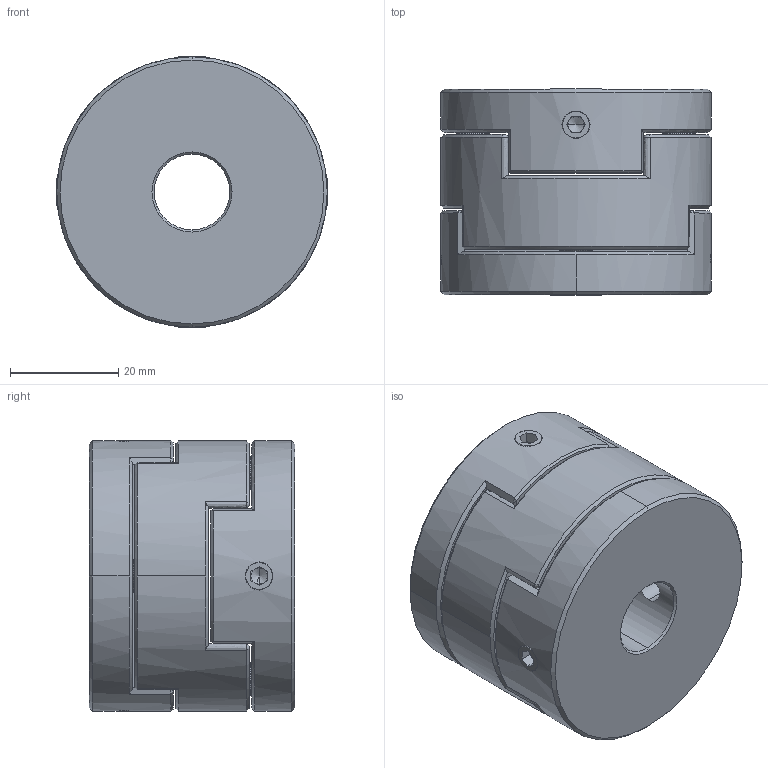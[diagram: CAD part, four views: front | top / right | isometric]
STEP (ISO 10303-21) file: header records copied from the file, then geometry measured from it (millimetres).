
FILE_DESCRIPTION (( 'STEP AP203' ), '1' );
FILE_NAME ('LZ-D-D50L38-14-24.STEP', '2021-10-30T05:47:01', ( '' ), ( '' ), 'SwSTEP 2.0', 'SolidWorks 2018', '' );
FILE_SCHEMA (( 'CONFIG_CONTROL_DESIGN' ));
Length unit declared in the file: millimetre
Products named in the file (1): LZ-D-D50L38-14-24
Bounding box: 50 x 38 x 50 mm (x, y, z)
Volume: 59713.1 mm3; surface area: 18289.6 mm2
Topology: 1 solids, 1 shells, 223 faces, 552 edges, 330 vertices
Faces by surface type: plane 89, bspline 54, cone 54, cylinder 26
Entity records: 7594 total; most frequent: CARTESIAN_POINT 2795, ORIENTED_EDGE 1088, DIRECTION 802, EDGE_CURVE 544, VERTEX_POINT 330, AXIS2_PLACEMENT_3D 290, EDGE_LOOP 248, FACE_OUTER_BOUND 223
